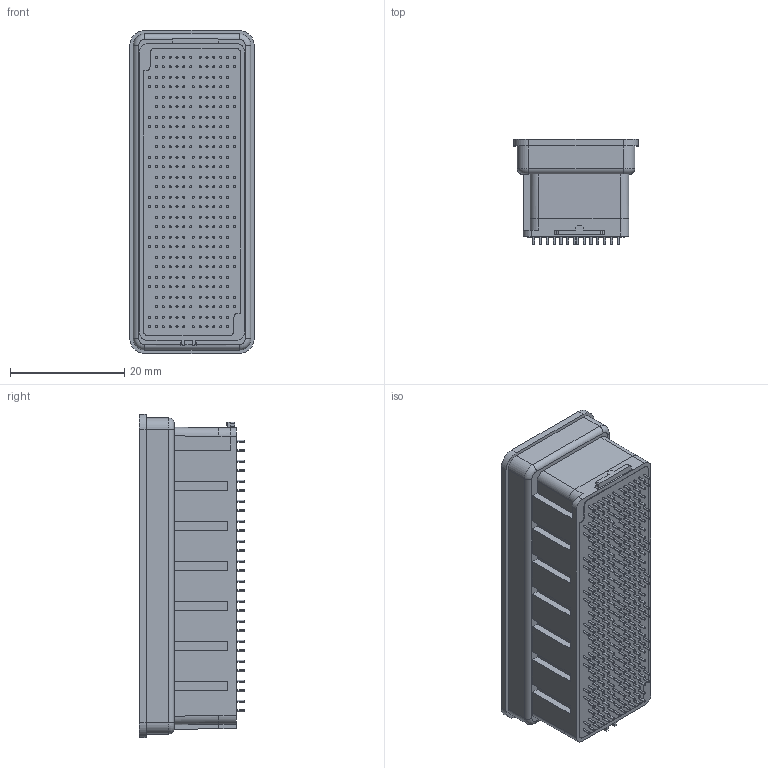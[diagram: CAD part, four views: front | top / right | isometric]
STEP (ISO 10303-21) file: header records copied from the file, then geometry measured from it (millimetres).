
FILE_DESCRIPTION((''),'2;1');
FILE_NAME('1728320001','2018-12-07T',('gga'),(''),'PRO/ENGINEER BY PARAMETRIC TECHNOLOGY CORPORATION, 2016010','PRO/ENGINEER BY PARAMETRIC TECHNOLOGY CORPORATION, 2016010','');
FILE_SCHEMA(('CONFIG_CONTROL_DESIGN'));
Length unit declared in the file: millimetre
Products named in the file (1): 1728320001
Bounding box: 21.77 x 18.43 x 56.52 mm (x, y, z)
Volume: 11512.8 mm3; surface area: 6605.1 mm2
Topology: 1 solids, 1 shells, 1297 faces, 3479 edges, 2524 vertices
Faces by surface type: cylinder 715, plane 574, cone 4, torus 4
Entity records: 40971 total; most frequent: DIRECTION 8165, CARTESIAN_POINT 6690, ORIENTED_EDGE 5614, AXIS2_PLACEMENT_3D 3400, EDGE_CURVE 2807, CIRCLE 2102, VERTEX_POINT 1852, EDGE_LOOP 1637
